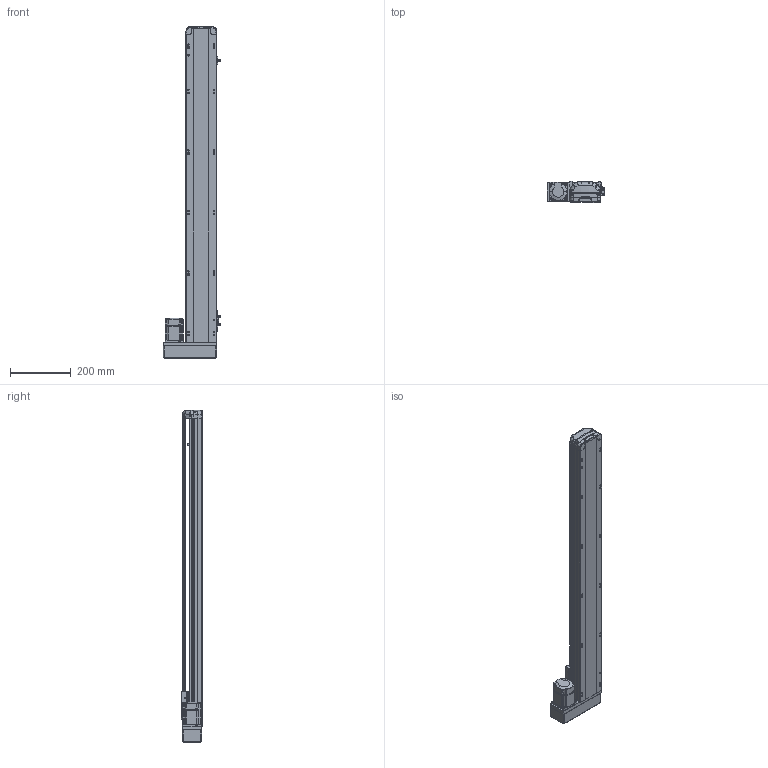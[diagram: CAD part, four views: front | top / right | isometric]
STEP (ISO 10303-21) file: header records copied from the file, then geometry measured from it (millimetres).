
FILE_DESCRIPTION (( 'STEP AP214' ), '1' );
FILE_NAME ('RTH10-XX-850-L-M20-C4.STEP', '2025-10-25T03:49:17', ( 'Microsoft' ), ( 'Microsoft' ), 'SwSTEP 2.0', 'SolidWorks 2018', '' );
FILE_SCHEMA (( 'AUTOMOTIVE_DESIGN' ));
Length unit declared in the file: millimetre
Products named in the file (10): N_RTH12-GY-004-賑釱^RTH10-XX-XX-L-M20-C4; N_200W-1^RTH10-XX-XX-L-M20-C4; RTH10-XX-850-L-M20-C4; N_RTH12-GY-001P^RTH10-XX-XX-L-M20-C4; N_RTH12-L-008萇儂啣^RTH10-XX-XX-L-M20-C4; N_RTH12-L-018-裔赽^RTH10-XX-XX-L-M20-C4; N_RTH13-L-012覜茼え俋离^RTH10-XX-XX-L-M20-C4; N_RTH12-M-011P-臏倰第菁釱^RTH10-XX-XX-L-M20-C4; N_OMRON EE-SX672 传感器^RTH10-XX-XX-L-M20-C4; N_RTH12-M-007P-奻裔^RTH10-XX-XX-L-M20-C4
Assembly tree (11 placements, depth 2):
  RTH10-XX-850-L-M20-C4
    N_RTH12-M-011P-臏倰第菁釱^RTH10-XX-XX-L-M20-C4
    N_RTH13-L-012覜茼え俋离^RTH10-XX-XX-L-M20-C4
    N_OMRON EE-SX672 传感器^RTH10-XX-XX-L-M20-C4  x3
    N_200W-1^RTH10-XX-XX-L-M20-C4
    N_RTH12-M-007P-奻裔^RTH10-XX-XX-L-M20-C4
    N_RTH12-L-008萇儂啣^RTH10-XX-XX-L-M20-C4
    N_RTH12-L-018-裔赽^RTH10-XX-XX-L-M20-C4
    N_RTH12-GY-004-賑釱^RTH10-XX-XX-L-M20-C4
    N_RTH12-GY-001P^RTH10-XX-XX-L-M20-C4
Bounding box: 190 x 70 x 1097.31 mm (x, y, z)
Volume: 4796611.6 mm3; surface area: 722918.1 mm2
Topology: 10 solids, 12 shells, 1996 faces, 5575 edges, 3661 vertices
Faces by surface type: plane 987, cylinder 502, bspline 472, cone 29, sphere 4, torus 2
Entity records: 60317 total; most frequent: CARTESIAN_POINT 23581, ORIENTED_EDGE 8222, DIRECTION 6389, EDGE_CURVE 4117, VERTEX_POINT 2705, VECTOR 2195, LINE 2195, AXIS2_PLACEMENT_3D 2097
